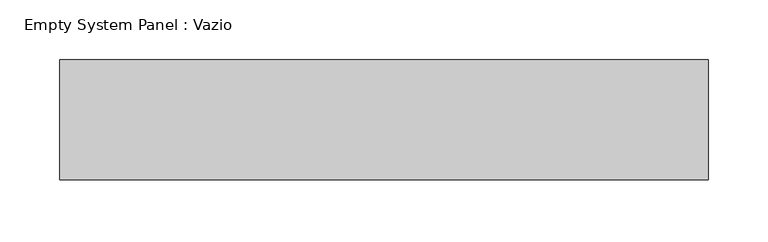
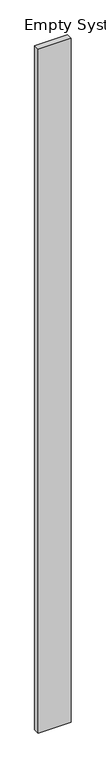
"""IFC4 building model written with IfcOpenShell, lengths in millimetres: plate geometry, Empty System Panel : Vazio."""

from ifc_helpers import new_model, si_unit, origin, origin_with_axes, place, context, project, spatial, polyline, outline, extrude, source, transform, mapped, element, save


def empty_system_panel_vazio_a9f1091a(model_context):
    return source(origin(), model_context, "Body", "SweptSolid", [
        extrude(outline(polyline([(270.8335136, 50.0), (-270.8335136, 50.0), (-270.8335136, 150.0), (270.8335136, 150.0), (270.8335136, 50.0)])), origin_with_axes(), (0.0, 0.0, 1.0), 11882.614899),
    ])


if __name__ == "__main__":
    model = new_model("IFC4")
    model_context = context("Model", 3, world=origin())
    ifc_project = project(units=[si_unit("LENGTHUNIT", "METRE", prefix="MILLI")], contexts=[model_context])
    site = spatial("IfcSite", under=ifc_project)
    building = spatial("IfcBuilding", under=site)
    placement = place(None, origin())
    empty_system_panel_vazio_shape = empty_system_panel_vazio_a9f1091a(model_context)
    element("IfcPlate", 1, ObjectType="Empty System Panel : Vazio", at=placement, inside=building, context=model_context, shape_type="MappedRepresentation", body=[
        mapped(empty_system_panel_vazio_shape, transform((0.0, 0.0, 0.0), x_axis=(1.0, 0.0, 0.0), y_axis=(0.0, 1.0, 0.0), z_axis=(0.0, 0.0, 1.0))),
    ])
    save(model, "model.ifc")
